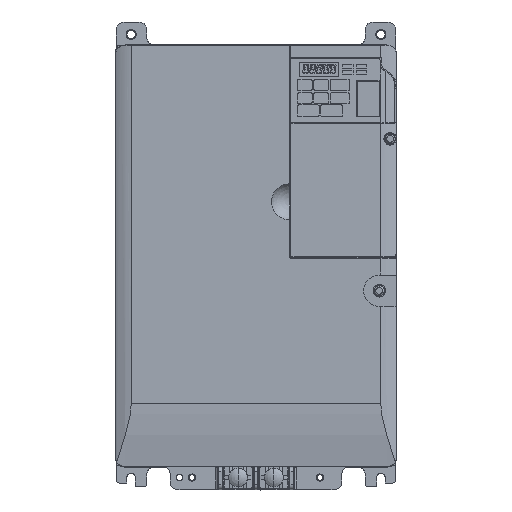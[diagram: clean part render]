
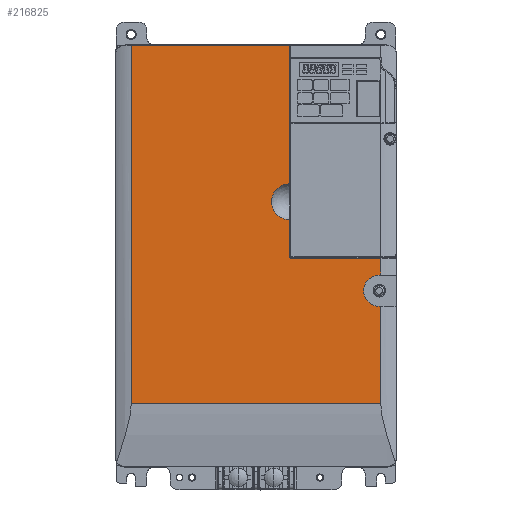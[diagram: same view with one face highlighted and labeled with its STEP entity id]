
A CAD part, top view. The second image highlights one B-rep face of the part: STEP entity #216825.
In plain terms, the highlighted planar face has unit normal (0, 0, 1).
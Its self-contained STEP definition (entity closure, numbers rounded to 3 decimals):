
#215254=DIRECTION('',(0.,1.,0.));
#215255=VECTOR('',#215254,0.912);
#215256=CARTESIAN_POINT('',(0.839,-0.008,
6.417));
#215257=LINE('',#215256,#215255);
#215258=DIRECTION('',(0.,1.,0.));
#215259=VECTOR('',#215258,3.463);
#215260=CARTESIAN_POINT('',(0.839,1.812,
6.417));
#215261=LINE('',#215260,#215259);
#215266=CARTESIAN_POINT('',(0.799,5.315,
6.417));
#215267=CARTESIAN_POINT('',(0.812,5.315,
6.417));
#215268=CARTESIAN_POINT('',(0.829,5.305,
6.417));
#215269=CARTESIAN_POINT('',(0.839,5.289,
6.417));
#215270=CARTESIAN_POINT('',(0.839,5.276,
6.417));
#215272=CARTESIAN_POINT('',(0.846,1.358,
6.417));
#215273=DIRECTION('',(0.,0.,1.));
#215274=DIRECTION('',(-0.017,1.,0.));
#215275=AXIS2_PLACEMENT_3D('',#215272,#215273,#215274);
#215277=CARTESIAN_POINT('',(0.846,1.358,
6.417));
#215278=DIRECTION('',(0.,0.,1.));
#215279=DIRECTION('',(-1.,0.,0.));
#215280=AXIS2_PLACEMENT_3D('',#215277,#215278,#215279);
#215282=CARTESIAN_POINT('',(0.839,-0.008,
6.417));
#215283=CARTESIAN_POINT('',(0.839,-0.016,
6.417));
#215284=CARTESIAN_POINT('',(0.842,-0.031,
6.417));
#215285=CARTESIAN_POINT('',(0.855,-0.051,
6.417));
#215286=CARTESIAN_POINT('',(0.874,-0.064,
6.417));
#215287=CARTESIAN_POINT('',(0.889,-0.067,
6.417));
#215288=CARTESIAN_POINT('',(0.898,-0.067,
6.417));
#215290=DIRECTION('',(1.,0.,0.));
#215291=VECTOR('',#215290,2.252);
#215292=CARTESIAN_POINT('',(0.898,-0.067,
6.417));
#215293=LINE('',#215292,#215291);
#215294=CARTESIAN_POINT('',(3.11,-0.886,
6.417));
#215295=DIRECTION('',(0.,0.,1.));
#215296=DIRECTION('',(0.,1.,0.));
#215297=AXIS2_PLACEMENT_3D('',#215294,#215295,#215296);
#215299=CARTESIAN_POINT('',(3.11,-0.886,
6.417));
#215300=DIRECTION('',(0.,0.,1.));
#215301=DIRECTION('',(-1.,0.,0.));
#215302=AXIS2_PLACEMENT_3D('',#215299,#215300,#215301);
#215304=DIRECTION('',(1.,0.,0.));
#215305=VECTOR('',#215304,3.949);
#215306=CARTESIAN_POINT('',(-3.15,5.315,
6.417));
#215307=LINE('',#215306,#215305);
#215353=DIRECTION('',(0.,1.,0.));
#215354=VECTOR('',#215353,0.425);
#215355=CARTESIAN_POINT('',(3.15,-0.492,
6.417));
#215356=LINE('',#215355,#215354);
#215362=DIRECTION('',(1.,0.,0.));
#215363=VECTOR('',#215362,0.039);
#215364=CARTESIAN_POINT('',(3.11,-0.492,
6.417));
#215365=LINE('',#215364,#215363);
#215403=DIRECTION('',(-1.,0.,0.));
#215404=VECTOR('',#215403,0.039);
#215405=CARTESIAN_POINT('',(3.15,-1.28,
6.417));
#215406=LINE('',#215405,#215404);
#215418=DIRECTION('',(0.,1.,0.));
#215419=VECTOR('',#215418,2.461);
#215420=CARTESIAN_POINT('',(3.15,-3.74,
6.417));
#215421=LINE('',#215420,#215419);
#215434=DIRECTION('',(1.,0.,0.));
#215435=VECTOR('',#215434,6.299);
#215436=CARTESIAN_POINT('',(-3.15,-3.74,
6.417));
#215437=LINE('',#215436,#215435);
#215489=DIRECTION('',(0.,-1.,0.));
#215490=VECTOR('',#215489,9.055);
#215491=CARTESIAN_POINT('',(-3.15,5.315,
6.417));
#215492=LINE('',#215491,#215490);
#216116=CARTESIAN_POINT('',(0.799,5.315,
6.417));
#216117=VERTEX_POINT('',#216116);
#216118=CARTESIAN_POINT('',(-3.15,5.315,
6.417));
#216119=VERTEX_POINT('',#216118);
#216126=CARTESIAN_POINT('',(0.839,5.276,
6.417));
#216127=VERTEX_POINT('',#216126);
#216138=CARTESIAN_POINT('',(0.839,-0.008,
6.417));
#216139=VERTEX_POINT('',#216138);
#216140=CARTESIAN_POINT('',(0.839,0.904,
6.417));
#216141=VERTEX_POINT('',#216140);
#216144=CARTESIAN_POINT('',(0.839,1.812,
6.417));
#216145=VERTEX_POINT('',#216144);
#216146=CARTESIAN_POINT('',(0.392,1.358,
6.417));
#216147=VERTEX_POINT('',#216146);
#216148=VERTEX_POINT('',#215288);
#216149=CARTESIAN_POINT('',(3.15,-0.067,
6.417));
#216150=VERTEX_POINT('',#216149);
#216151=CARTESIAN_POINT('',(3.15,-0.492,
6.417));
#216152=VERTEX_POINT('',#216151);
#216153=CARTESIAN_POINT('',(3.11,-0.492,
6.417));
#216154=VERTEX_POINT('',#216153);
#216155=CARTESIAN_POINT('',(2.717,-0.886,
6.417));
#216156=VERTEX_POINT('',#216155);
#216157=CARTESIAN_POINT('',(3.11,-1.28,
6.417));
#216158=VERTEX_POINT('',#216157);
#216159=CARTESIAN_POINT('',(3.15,-1.28,
6.417));
#216160=VERTEX_POINT('',#216159);
#216161=CARTESIAN_POINT('',(3.15,-3.74,
6.417));
#216162=VERTEX_POINT('',#216161);
#216163=CARTESIAN_POINT('',(-3.15,-3.74,
6.417));
#216164=VERTEX_POINT('',#216163);
#216790=CARTESIAN_POINT('',(0.,0.,6.417));
#216791=DIRECTION('',(0.,0.,1.));
#216792=DIRECTION('',(1.,0.,0.));
#216793=AXIS2_PLACEMENT_3D('',#216790,#216791,#216792);
#216794=PLANE('',#216793);
#216795=ORIENTED_EDGE('',*,*,#216784,.T.);
#216796=ORIENTED_EDGE('',*,*,#216772,.F.);
#216798=ORIENTED_EDGE('',*,*,#216797,.T.);
#216800=ORIENTED_EDGE('',*,*,#216799,.T.);
#216801=ORIENTED_EDGE('',*,*,#216766,.F.);
#216803=ORIENTED_EDGE('',*,*,#216802,.T.);
#216805=ORIENTED_EDGE('',*,*,#216804,.T.);
#216807=ORIENTED_EDGE('',*,*,#216806,.F.);
#216809=ORIENTED_EDGE('',*,*,#216808,.F.);
#216811=ORIENTED_EDGE('',*,*,#216810,.T.);
#216813=ORIENTED_EDGE('',*,*,#216812,.T.);
#216815=ORIENTED_EDGE('',*,*,#216814,.F.);
#216817=ORIENTED_EDGE('',*,*,#216816,.F.);
#216819=ORIENTED_EDGE('',*,*,#216818,.F.);
#216821=ORIENTED_EDGE('',*,*,#216820,.F.);
#216822=ORIENTED_EDGE('',*,*,#216692,.T.);
#216823=EDGE_LOOP('',(#216795,#216796,#216798,#216800,#216801,#216803,#216805,
#216807,#216809,#216811,#216813,#216815,#216817,#216819,#216821,#216822));
#216824=FACE_OUTER_BOUND('',#216823,.F.);
#216825=ADVANCED_FACE('',(#216824),#216794,.T.);
#215271=B_SPLINE_CURVE_WITH_KNOTS('',3,(#215266,#215267,#215268,#215269,
#215270),.UNSPECIFIED.,.F.,.F.,(4,1,4),(0.,0.5,1.),.UNSPECIFIED.);
#215276=CIRCLE('',#215275,0.454);
#215281=CIRCLE('',#215280,0.454);
#215289=B_SPLINE_CURVE_WITH_KNOTS('',3,(#215282,#215283,#215284,#215285,#215286,
#215287,#215288),.UNSPECIFIED.,.F.,.F.,(4,1,1,1,4),(0.,0.25,0.5,0.75,
1.),.UNSPECIFIED.);
#215298=CIRCLE('',#215297,0.394);
#215303=CIRCLE('',#215302,0.394);
#216692=EDGE_CURVE('',#216119,#216117,#215307,.T.);
#216766=EDGE_CURVE('',#216139,#216141,#215257,.T.);
#216772=EDGE_CURVE('',#216145,#216127,#215261,.T.);
#216784=EDGE_CURVE('',#216117,#216127,#215271,.T.);
#216797=EDGE_CURVE('',#216145,#216147,#215276,.T.);
#216799=EDGE_CURVE('',#216147,#216141,#215281,.T.);
#216802=EDGE_CURVE('',#216139,#216148,#215289,.T.);
#216804=EDGE_CURVE('',#216148,#216150,#215293,.T.);
#216806=EDGE_CURVE('',#216152,#216150,#215356,.T.);
#216808=EDGE_CURVE('',#216154,#216152,#215365,.T.);
#216810=EDGE_CURVE('',#216154,#216156,#215298,.T.);
#216812=EDGE_CURVE('',#216156,#216158,#215303,.T.);
#216814=EDGE_CURVE('',#216160,#216158,#215406,.T.);
#216816=EDGE_CURVE('',#216162,#216160,#215421,.T.);
#216818=EDGE_CURVE('',#216164,#216162,#215437,.T.);
#216820=EDGE_CURVE('',#216119,#216164,#215492,.T.);
